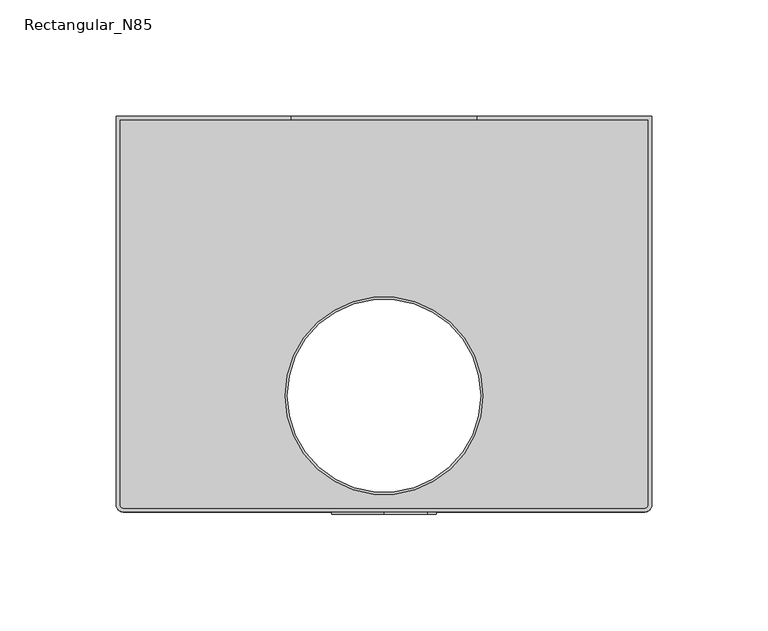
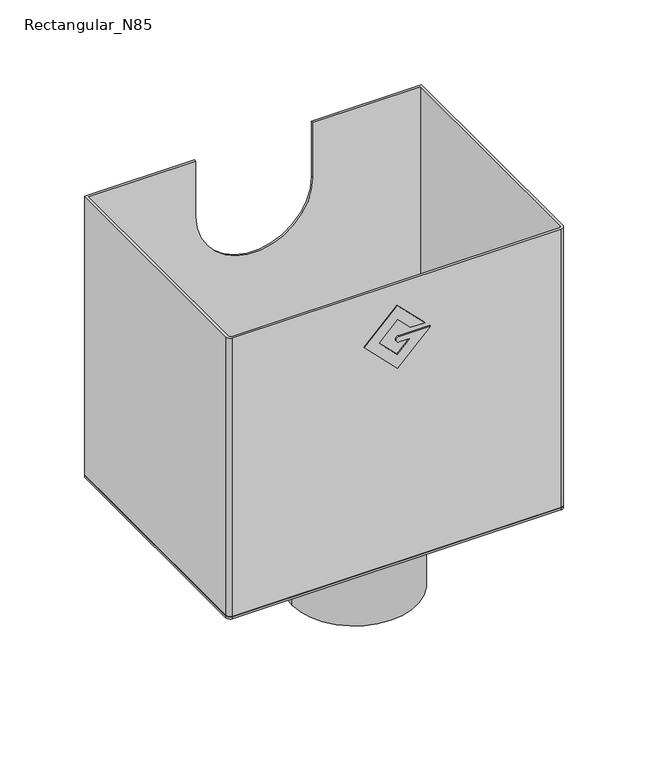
"""IFC4 building model written with IfcOpenShell, lengths in millimetres: proxy geometry, GROVIK_Downpipe_Hopper : Rectangular_N85."""

import ifcopenshell
import ifcopenshell.guid

model = None  # the IFC model being written
_history = None  # IfcOwnerHistory: only IFC2X3 demands one
_inside = {}  # id of a spatial element -> (the spatial element, [elements in it])
_under = {}  # id of a project, library or spatial element -> (it, [spatial elements below it])
_declared = {}  # id of a project -> (the project, [libraries it declares])
_typed = {}  # id of a type object -> (the type object, [elements of that type])
_made_of = {}  # id of a material, layer set ... -> (it, [elements and type objects made of it])


def new_model(schema):
    """Start an empty IFC model of exactly this schema.

    Asked for "IFC4X3", IfcOpenShell would pick the latest addendum, in which some entities
    have other attributes; the version numbers below select the first issue.
    IFC2X3 requires an IfcOwnerHistory on every rooted entity: one is made here for all.
    """
    global model, _history
    if schema == "IFC4X3":
        model = ifcopenshell.file(schema_version=(4, 3, 0, 0))
    else:
        model = ifcopenshell.file(schema=schema)
    _inside.clear()
    _under.clear()
    _declared.clear()
    _typed.clear()
    _made_of.clear()
    _history = None
    if model.schema == "IFC2X3":
        org = make("IfcOrganization", Name="unknown")
        user = make(
            "IfcPersonAndOrganization",
            ThePerson=make("IfcPerson", FamilyName="unknown"),
            TheOrganization=org,
        )
        app = make(
            "IfcApplication",
            ApplicationDeveloper=org,
            Version="unknown",
            ApplicationFullName="unknown",
            ApplicationIdentifier="unknown",
        )
        _history = make(
            "IfcOwnerHistory",
            OwningUser=user,
            OwningApplication=app,
            ChangeAction="ADDED",
            CreationDate=0,
        )
    return model


def make(cls, **values):
    """One entity of the class cls with the attributes given. An attribute that is None is left unset."""
    return model.create_entity(
        cls, **{name: value for name, value in values.items() if value is not None}
    )


def rooted(cls, **values):
    """An entity with a GlobalId (a new one), such as an element, a storey or a relation."""
    return make(cls, GlobalId=ifcopenshell.guid.new(), OwnerHistory=_history, **values)


def si_unit(unit_type, name, prefix=None):
    """IfcSIUnit, for example si_unit("LENGTHUNIT", "METRE", prefix="MILLI")."""
    return make("IfcSIUnit", UnitType=unit_type, Prefix=prefix, Name=name)


def assignment(units):
    """IfcUnitAssignment: the units of a project."""
    return None if units is None else make("IfcUnitAssignment", Units=units)


def point(xyz):
    """IfcCartesianPoint."""
    return None if xyz is None else make("IfcCartesianPoint", Coordinates=xyz)


def direction(xyz):
    """IfcDirection."""
    return None if xyz is None else make("IfcDirection", DirectionRatios=xyz)


def frame(location, z_axis=None, x_axis=None):
    """IfcAxis2Placement3D, a coordinate frame: its origin and axes. An axis left out is left unset."""
    return make(
        "IfcAxis2Placement3D",
        Location=point(location),
        Axis=direction(z_axis),
        RefDirection=direction(x_axis),
    )


def frame_2d(location, x_axis=None):
    """IfcAxis2Placement2D, a coordinate frame in the plane: its origin and x axis."""
    return make(
        "IfcAxis2Placement2D", Location=point(location), RefDirection=direction(x_axis)
    )


def origin():
    """The frame at (0, 0, 0) with its axes left unset."""
    return frame((0.0, 0.0, 0.0))


def origin_with_axes():
    """The frame at (0, 0, 0) with the z axis (0, 0, 1) and the x axis (1, 0, 0) written out."""
    return frame((0.0, 0.0, 0.0), z_axis=(0.0, 0.0, 1.0), x_axis=(1.0, 0.0, 0.0))


def origin_2d():
    """The frame at (0, 0) in the plane with its x axis left unset."""
    return frame_2d((0.0, 0.0))


def place(relative_to, where):
    """IfcLocalPlacement: puts the frame where relative to a parent placement (None: the world)."""
    return make(
        "IfcLocalPlacement", PlacementRelTo=relative_to, RelativePlacement=where
    )


def context(
    kind, dimensions, precision=None, world=None, true_north=None, identifier=None
):
    """IfcGeometricRepresentationContext, for example the 3D "Model" context."""
    return make(
        "IfcGeometricRepresentationContext",
        ContextIdentifier=identifier,
        ContextType=kind,
        CoordinateSpaceDimension=dimensions,
        Precision=precision,
        WorldCoordinateSystem=world,
        TrueNorth=true_north,
    )


def project(units=None, contexts=None):
    """IfcProject with its units and contexts."""
    return rooted(
        "IfcProject",
        Name="project",
        RepresentationContexts=contexts,
        UnitsInContext=assignment(units),
    )


def spatial(cls, under=None, at=None, **own):
    """A site, building, storey or space (cls), placed at a placement, below another one or the project."""
    s = rooted(cls, ObjectPlacement=at, **own)
    if under is not None:
        _under.setdefault(under.id(), (under, []))[1].append(s)
    return s


def polyline(points):
    """IfcPolyline through the points."""
    return make("IfcPolyline", Points=[point(p) for p in points])


def circle_curve(where, radius):
    """IfcCircle in the frame where."""
    return make("IfcCircle", Position=where, Radius=radius)


def trimmed(basis, trim1, trim2, sense, master):
    """IfcTrimmedCurve: the piece of a basis curve between two trims."""
    return make(
        "IfcTrimmedCurve",
        BasisCurve=basis,
        Trim1=trim1,
        Trim2=trim2,
        SenseAgreement=sense,
        MasterRepresentation=master,
    )


def segment(curve, same_sense, transition):
    """IfcCompositeCurveSegment."""
    return make(
        "IfcCompositeCurveSegment",
        Transition=transition,
        SameSense=same_sense,
        ParentCurve=curve,
    )


def composite_curve(segments, self_intersect=None):
    """IfcCompositeCurve: segments joined end to end."""
    return make("IfcCompositeCurve", Segments=segments, SelfIntersect=self_intersect)


def outline(outer, holes=None, kind="AREA"):
    """IfcArbitraryClosedProfileDef: a profile drawn as a closed curve; with holes, ...WithVoids."""
    if holes is None:
        return make("IfcArbitraryClosedProfileDef", ProfileType=kind, OuterCurve=outer)
    return make(
        "IfcArbitraryProfileDefWithVoids",
        ProfileType=kind,
        OuterCurve=outer,
        InnerCurves=holes,
    )


def extrude(swept, where, along, depth):
    """IfcExtrudedAreaSolid: the profile swept, set in the frame where, extruded along a direction by depth."""
    return make(
        "IfcExtrudedAreaSolid",
        SweptArea=swept,
        Position=where,
        ExtrudedDirection=direction(along),
        Depth=depth,
    )


def shape(context_of_items, identifier, shape_type, items):
    """IfcShapeRepresentation: the items that make up one representation, for example the "Body"."""
    return make(
        "IfcShapeRepresentation",
        ContextOfItems=context_of_items,
        RepresentationIdentifier=identifier,
        RepresentationType=shape_type,
        Items=items,
    )


def source(mapping_origin, context_of_items, identifier, shape_type, items):
    """IfcRepresentationMap: a shape defined once, which mapped items show again and again."""
    return make(
        "IfcRepresentationMap",
        MappingOrigin=mapping_origin,
        MappedRepresentation=shape(context_of_items, identifier, shape_type, items),
    )


def transform(
    local_origin,
    x_axis=None,
    y_axis=None,
    z_axis=None,
    scale=None,
    scale2=None,
    scale3=None,
    uniform=True,
):
    """IfcCartesianTransformationOperator3D, or its non-uniform kind. x_axis, y_axis, z_axis: its Axis1, 2, 3."""
    if uniform:
        return make(
            "IfcCartesianTransformationOperator3D",
            Axis1=direction(x_axis),
            Axis2=direction(y_axis),
            LocalOrigin=point(local_origin),
            Scale=scale,
            Axis3=direction(z_axis),
        )
    return make(
        "IfcCartesianTransformationOperator3DnonUniform",
        Axis1=direction(x_axis),
        Axis2=direction(y_axis),
        LocalOrigin=point(local_origin),
        Scale=scale,
        Axis3=direction(z_axis),
        Scale2=scale2,
        Scale3=scale3,
    )


def mapped(mapping_source, mapping_target):
    """IfcMappedItem: shows the shape of a source again, moved by a transform."""
    return make(
        "IfcMappedItem", MappingSource=mapping_source, MappingTarget=mapping_target
    )


def made_of(thing, what):
    """Note that an element or type object is made of a material, layer set ...; save() writes the relation."""
    if what is not None:
        _made_of.setdefault(what.id(), (what, []))[1].append(thing)
    return thing


def element(
    cls,
    number,
    at=None,
    inside=None,
    cuts=None,
    type_object=None,
    material=None,
    context=None,
    identifier="Body",
    shape_type=None,
    held_by="IfcProductDefinitionShape",
    body=None,
    shapes=None,
    **own,
):
    """One element of the class cls, such as IfcWall. Its Tag is "e" and its number.

    at: its placement. inside: the storey or other place that contains it. cuts: it is an
    opening in that element (IfcRelVoidsElement). A single representation is given by context,
    identifier, shape_type and body (its items); several are given by shapes. held_by: the class
    of the entity that holds the representations. save() writes the other relations.
    """
    e = rooted(cls, Tag="e%d" % number, ObjectPlacement=at, **own)
    if body is not None:
        shapes = [shape(context, identifier, shape_type, body)]
    if shapes is not None:
        e.Representation = make(held_by, Representations=shapes)
    if inside is not None:
        _inside.setdefault(inside.id(), (inside, []))[1].append(e)
    if cuts is not None:
        rooted(
            "IfcRelVoidsElement", RelatingBuildingElement=cuts, RelatedOpeningElement=e
        )
    if type_object is not None:
        _typed.setdefault(type_object.id(), (type_object, []))[1].append(e)
    return made_of(e, material)


def aggregate(whole, parts):
    """IfcRelAggregates: a whole, such as a stair, and the parts it consists of."""
    return rooted("IfcRelAggregates", RelatingObject=whole, RelatedObjects=parts)


def save(model, path):
    """Write the relations noted so far, then the file.

    IfcRelAggregates (storeys below a building ...), IfcRelContainedInSpatialStructure (elements
    in a storey), IfcRelDefinesByType, IfcRelAssociatesMaterial and IfcRelDeclares: one each for
    every whole, place, type object, material and project.
    """
    for whole, parts in _under.values():
        aggregate(whole, parts)
    for where, things in _inside.values():
        rooted(
            "IfcRelContainedInSpatialStructure",
            RelatedElements=things,
            RelatingStructure=where,
        )
    for kind, things in _typed.values():
        rooted("IfcRelDefinesByType", RelatedObjects=things, RelatingType=kind)
    for what, things in _made_of.values():
        rooted("IfcRelAssociatesMaterial", RelatedObjects=things, RelatingMaterial=what)
    for by, libraries in _declared.values():
        rooted("IfcRelDeclares", RelatingContext=by, RelatedDefinitions=libraries)
    model.write(path)


def plane_surface(at):
    """IfcPlane: the flat surface through the origin of the frame at, square to its z axis."""
    return make("IfcPlane", Position=at)


def cylinder_surface(at, radius):
    """IfcCylindricalSurface: all points at the distance radius from the z axis of the frame at."""
    return make("IfcCylindricalSurface", Position=at, Radius=radius)


def revolved_surface(curve, axis_point, axis_direction):
    """IfcSurfaceOfRevolution: the curve turned about the line through axis_point along axis_direction."""
    return make(
        "IfcSurfaceOfRevolution",
        SweptCurve=make("IfcArbitraryOpenProfileDef", ProfileType="CURVE", Curve=curve),
        AxisPosition=make("IfcAxis1Placement", Location=point(axis_point), Axis=direction(axis_direction)),
    )


def advanced_brep(points, edges, surfaces, faces):
    """IfcAdvancedBrep: a solid bounded by faces that lie on surfaces and meet in shared edges.

    An edge is (start, end): straight between two places in points (the first is 0);
    or (start, end, curve); or (start, end, curve, False) where it runs against its curve.
    A face is (place in surfaces, loops), or (place, loops, False) where it looks against
    its surface's normal. A loop lists edges by number (the first is 1), with a minus sign
    where the edge is run from its end to its start. The first loop is the outer one.
    """
    corners = [point(p) for p in points]
    vertices = [make("IfcVertexPoint", VertexGeometry=c) for c in corners]
    made = []
    for start, end, *more in edges:
        made.append(
            make(
                "IfcEdgeCurve",
                EdgeStart=vertices[start],
                EdgeEnd=vertices[end],
                EdgeGeometry=more[0] if more else make("IfcPolyline", Points=[corners[start], corners[end]]),
                SameSense=more[1] if len(more) > 1 else True,
            )
        )
    hull = []
    for where, loops, *sense in faces:
        bounds = []
        for j, loop in enumerate(loops):
            ring = [make("IfcOrientedEdge", EdgeElement=made[abs(k) - 1], Orientation=k > 0) for k in loop]
            bounds.append(
                make(
                    "IfcFaceOuterBound" if j == 0 else "IfcFaceBound",
                    Bound=make("IfcEdgeLoop", EdgeList=ring),
                    Orientation=True,
                )
            )
        hull.append(make("IfcAdvancedFace", Bounds=bounds, FaceSurface=surfaces[where], SameSense=sense[0] if sense else True))
    return make("IfcAdvancedBrep", Outer=make("IfcClosedShell", CfsFaces=hull))


def rectangular_n85_8b699015(model_context):
    return source(origin(), model_context, "Body", "SolidModel", [
        extrude(outline(composite_curve([segment(polyline([(209.5, 22.5018), (209.5, 0.9983708)]), True, "CONTINUOUS"), segment(trimmed(circle_curve(frame_2d((207.562345, 0.9983708)), 1.937655), [point((209.5, 0.9983708))], [point((205.62469, 0.9983708))], False, "CARTESIAN"), True, "CONTINUOUS"), segment(polyline([(205.62469, 0.9983708), (205.62469, 8.9029939), (196.7220143, 0.0003182), (209.5, -12.7776675), (222.2779857, 0.0003182), (213.3749918, 8.9033121), (213.3749918, 18.6268082), (232.0018, 0.0), (209.5, -22.5018), (186.9982, 0.0), (209.5, 22.5018)]), True, "CONTINUOUS")], self_intersect=False)), frame((0.0, -51.0, 0.0), z_axis=(0.0, 1.0, 0.0), x_axis=(0.0, 0.0, 1.0)), (0.0, 0.0, 1.0), 1.0),
        extrude(outline(composite_curve([segment(trimmed(circle_curve(frame_2d((-112.0, -47.0)), 3.0), [point((-112.0, -50.0))], [point((-115.0, -47.0))], False, "CARTESIAN"), True, "CONTINUOUS"), segment(polyline([(-115.0, -47.0), (-115.0, 120.0), (115.0, 120.0), (115.0, -47.0)]), True, "CONTINUOUS"), segment(trimmed(circle_curve(frame_2d((112.0, -47.0)), 3.0), [point((115.0, -47.0))], [point((112.0, -50.0))], False, "CARTESIAN"), True, "CONTINUOUS"), segment(polyline([(112.0, -50.0), (-112.0, -50.0)]), True, "CONTINUOUS")], self_intersect=False), holes=[composite_curve([segment(trimmed(circle_curve(origin_2d(), 42.5), [point((-42.5, 0.0))], [point((42.5, 0.0))], True, "CARTESIAN"), True, "CONTINUOUS"), segment(trimmed(circle_curve(origin_2d(), 42.5), [point((42.5, 0.0))], [point((-42.5, 0.0))], True, "CARTESIAN"), True, "CONTINUOUS")], self_intersect=False)]), frame((0.0, 0.0, 45.0), z_axis=(0.0, 0.0, 1.0), x_axis=(1.0, 0.0, 0.0)), (0.0, 0.0, 1.0), 1.5),
        advanced_brep(
        [(-112.0, -50.0, 247.6), (112.0, -50.0, 247.6), (115.0, -47.0, 247.6), (115.0, 120.0, 247.6), (40.0, 120.0, 247.6), (40.0, 118.5, 247.6), (113.5, 118.5, 247.6), (113.5, -47.0, 247.6), (112.0, -48.5, 247.6), (-112.0, -48.5, 247.6), (-113.5, -47.0, 247.6), (-113.5, 118.5, 247.6), (-40.0, 118.5, 247.6), (-40.0, 120.0, 247.6), (-115.0, 120.0, 247.6), (-115.0, -47.0, 247.6), (-112.0, -50.0, 46.5), (-115.0, -47.0, 46.5), (-115.0, 120.0, 46.5), (115.0, 120.0, 46.5), (115.0, -47.0, 46.5), (112.0, -50.0, 46.5), (113.5, -47.0, 46.5), (113.5, 118.5, 46.5), (-113.5, 118.5, 46.5), (-113.5, -47.0, 46.5), (-112.0, -48.5, 46.5), (112.0, -48.5, 46.5), (-40.0, 120.0, 207.6), (40.0, 120.0, 207.6), (40.0, 118.5, 207.6), (-40.0, 118.5, 207.6)],
        [
            (0, 1),
            (1, 2, circle_curve(frame((112.0, -47.0, 247.6), z_axis=(0.0, 0.0, 1.0), x_axis=(1.0, 0.0, 0.0)), 3.0)),
            (2, 3),
            (3, 4),
            (4, 5),
            (5, 6),
            (6, 7),
            (7, 8, circle_curve(frame((112.0, -47.0, 247.6), z_axis=(0.0, 0.0, -1.0), x_axis=(1.0, 0.0, 0.0)), 1.5)),
            (8, 9),
            (9, 10, circle_curve(frame((-112.0, -47.0, 247.6), z_axis=(0.0, 0.0, -1.0), x_axis=(1.0, 0.0, 0.0)), 1.5)),
            (10, 11),
            (11, 12),
            (12, 13),
            (13, 14),
            (14, 15),
            (15, 0, circle_curve(frame((-112.0, -47.0, 247.6), z_axis=(0.0, 0.0, 1.0), x_axis=(1.0, 0.0, 0.0)), 3.0)),
            (16, 17, circle_curve(frame((-112.0, -47.0, 46.5), z_axis=(0.0, 0.0, -1.0), x_axis=(1.0, 0.0, 0.0)), 3.0)),
            (17, 18),
            (18, 19),
            (19, 20),
            (20, 21, circle_curve(frame((112.0, -47.0, 46.5), z_axis=(0.0, 0.0, -1.0), x_axis=(1.0, 0.0, 0.0)), 3.0)),
            (21, 16),
            (22, 23),
            (23, 24),
            (24, 25),
            (25, 26, circle_curve(frame((-112.0, -47.0, 46.5), z_axis=(0.0, 0.0, 1.0), x_axis=(1.0, 0.0, 0.0)), 1.5)),
            (26, 27),
            (27, 22, circle_curve(frame((112.0, -47.0, 46.5), z_axis=(0.0, 0.0, 1.0), x_axis=(1.0, 0.0, 0.0)), 1.5)),
            (0, 16),
            (21, 1),
            (20, 2),
            (19, 3),
            (18, 14),
            (13, 28),
            (28, 29, circle_curve(frame((0.0, 120.0, 207.6), z_axis=(0.0, -1.0, 0.0), x_axis=(1.0, 0.0, 0.0)), 40.0)),
            (29, 4),
            (17, 15),
            (7, 22),
            (27, 8),
            (26, 9),
            (25, 10),
            (24, 11),
            (23, 6),
            (5, 30),
            (30, 31, circle_curve(frame((0.0, 118.5, 207.6), z_axis=(0.0, 1.0, 0.0), x_axis=(1.0, 0.0, 0.0)), 40.0)),
            (31, 12),
            (28, 31),
            (30, 29),
        ],
        [
            plane_surface(frame((-112.0, -50.0, 247.6), z_axis=(0.0, 0.0, 1.0), x_axis=(1.0, 0.0, 0.0))),
            plane_surface(frame((-112.0, -50.0, 46.5), z_axis=(0.0, 0.0, -1.0), x_axis=(-1.0, 0.0, 0.0))),
            plane_surface(frame((-112.0, -50.0, 247.6), z_axis=(0.0, -1.0, 0.0), x_axis=(0.0, 0.0, -1.0))),
            cylinder_surface(frame((112.0, -47.0, 46.5), z_axis=(0.0, 0.0, 1.0), x_axis=(1.0, 0.0, 0.0)), 3.0),
            plane_surface(frame((115.0, -47.0, 247.6), z_axis=(1.0, 0.0, 0.0), x_axis=(0.0, 0.0, -1.0))),
            plane_surface(frame((115.0, 120.0, 247.6), z_axis=(0.0, 1.0, 0.0), x_axis=(0.0, 0.0, -1.0))),
            plane_surface(frame((-115.0, 120.0, 247.6), z_axis=(-1.0, 0.0, 0.0), x_axis=(0.0, 0.0, -1.0))),
            cylinder_surface(frame((-112.0, -47.0, 46.5), z_axis=(0.0, 0.0, 1.0), x_axis=(1.0, 0.0, 0.0)), 3.0),
            revolved_surface(polyline([(113.5, -47.0, 46.5), (113.5, -47.0, 247.6)]), (112.0, -47.0, 0.0), (0.0, 0.0, -1.0)),
            plane_surface(frame((112.0, -48.5, 247.6), z_axis=(0.0, 1.0, 0.0), x_axis=(0.0, 0.0, -1.0))),
            revolved_surface(polyline([(-110.5, -47.0, 46.5), (-110.5, -47.0, 247.6)]), (-112.0, -47.0, 0.0), (0.0, 0.0, -1.0)),
            plane_surface(frame((-113.5, -47.0, 247.6), z_axis=(1.0, 0.0, 0.0), x_axis=(0.0, 0.0, -1.0))),
            plane_surface(frame((-113.5, 118.5, 247.6), z_axis=(0.0, -1.0, 0.0), x_axis=(0.0, 0.0, -1.0))),
            plane_surface(frame((113.5, 118.5, 247.6), z_axis=(-1.0, 0.0, 0.0), x_axis=(0.0, 0.0, -1.0))),
            revolved_surface(polyline([(40.0, 118.5, 207.6), (40.0, 120.0, 207.6)]), (0.0, 120.0, 207.6), (0.0, -1.0, 0.0)),
            plane_surface(frame((40.0, 118.0, 207.6), z_axis=(-1.0, 0.0, 0.0), x_axis=(0.0, 1.0, 0.0))),
            plane_surface(frame((-40.0, 118.0, 247.6), z_axis=(1.0, 0.0, 0.0), x_axis=(0.0, 1.0, 0.0))),
        ],
        [
            (0, [[1, 2, 3, 4, 5, 6, 7, 8, 9, 10, 11, 12, 13, 14, 15, 16]]),
            (1, [[17, 18, 19, 20, 21, 22], [23, 24, 25, 26, 27, 28]]),
            (2, [[-1, 29, -22, 30]]),
            (3, [[-2, -30, -21, 31]]),
            (4, [[-3, -31, -20, 32]]),
            (5, [[-19, 33, -14, 34, 35, 36, -4, -32]]),
            (6, [[-15, -33, -18, 37]]),
            (7, [[-16, -37, -17, -29]]),
            (8, [[-8, 38, -28, 39]]),
            (9, [[-9, -39, -27, 40]]),
            (10, [[-10, -40, -26, 41]]),
            (11, [[-11, -41, -25, 42]]),
            (12, [[-24, 43, -6, 44, 45, 46, -12, -42]]),
            (13, [[-7, -43, -23, -38]]),
            (14, [[47, -45, 48, -35]]),
            (15, [[-48, -44, -5, -36]]),
            (16, [[-47, -34, -13, -46]]),
        ],
    ),
        extrude(outline(composite_curve([segment(trimmed(circle_curve(origin_2d(), 42.5), [point((-42.5, 0.0))], [point((42.5, 0.0))], False, "CARTESIAN"), True, "CONTINUOUS"), segment(trimmed(circle_curve(origin_2d(), 42.5), [point((42.5, 0.0))], [point((-42.5, 0.0))], False, "CARTESIAN"), True, "CONTINUOUS")], self_intersect=False), holes=[composite_curve([segment(trimmed(circle_curve(origin_2d(), 41.5), [point((-41.5, 0.0))], [point((41.5, 0.0))], True, "CARTESIAN"), True, "CONTINUOUS"), segment(trimmed(circle_curve(origin_2d(), 41.5), [point((41.5, 0.0))], [point((-41.5, 0.0))], True, "CARTESIAN"), True, "CONTINUOUS")], self_intersect=False)]), origin_with_axes(), (0.0, 0.0, 1.0), 46.5),
    ])


if __name__ == "__main__":
    model = new_model("IFC4")
    model_context = context("Model", 3, world=origin())
    ifc_project = project(units=[si_unit("LENGTHUNIT", "METRE", prefix="MILLI")], contexts=[model_context])
    site = spatial("IfcSite", under=ifc_project)
    building = spatial("IfcBuilding", under=site)
    placement = place(None, origin())
    rectangular_n85_shape = rectangular_n85_8b699015(model_context)
    element("IfcBuildingElementProxy", 1, Name="GROVIK_Downpipe_Hopper : Rectangular_N85", ObjectType="GROVIK_Downpipe_Hopper : Rectangular_N85", at=placement, inside=building, context=model_context, shape_type="MappedRepresentation", body=[
        mapped(rectangular_n85_shape, transform((0.0, 0.0, 0.0), x_axis=(1.0, 0.0, 0.0), y_axis=(0.0, 1.0, 0.0), z_axis=(0.0, 0.0, 1.0))),
    ])
    save(model, "model.ifc")
